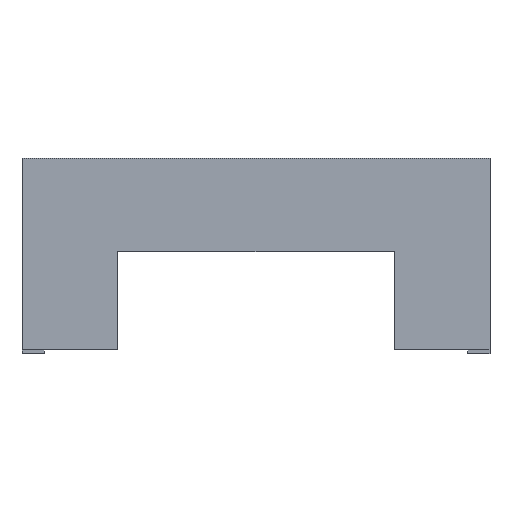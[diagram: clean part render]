
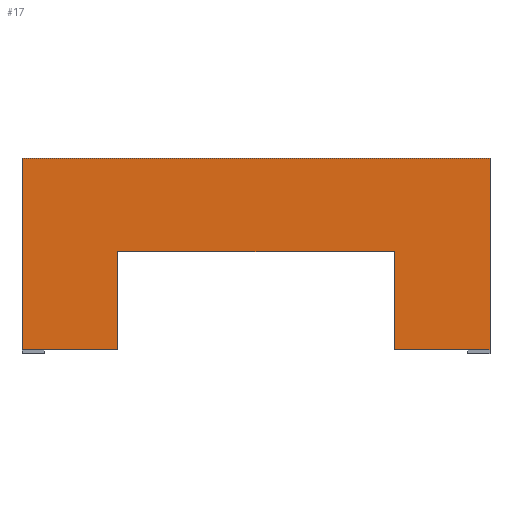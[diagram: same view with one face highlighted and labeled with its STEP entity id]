
A CAD part, left-side view. The second image highlights one B-rep face of the part: STEP entity #17.
In plain terms, the highlighted planar face has unit normal (-1, 0, 0).
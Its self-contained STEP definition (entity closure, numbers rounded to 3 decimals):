
#17 = ADVANCED_FACE('',(#18),#32,.F.);
#18 = FACE_BOUND('',#19,.F.);
#19 = EDGE_LOOP('',(#20,#55,#83,#111,#137,#163,#189,#217));
#20 = ORIENTED_EDGE('',*,*,#21,.F.);
#21 = EDGE_CURVE('',#22,#24,#26,.T.);
#22 = VERTEX_POINT('',#23);
#23 = CARTESIAN_POINT('',(67.6,18.336,12.));
#24 = VERTEX_POINT('',#25);
#25 = CARTESIAN_POINT('',(67.6,35.136,12.));
#26 = SURFACE_CURVE('',#27,(#31,#43),.PCURVE_S1.);
#27 = LINE('',#28,#29);
#28 = CARTESIAN_POINT('',(67.6,18.336,12.));
#29 = VECTOR('',#30,1.);
#30 = DIRECTION('',(0.,1.,0.));
#31 = PCURVE('',#32,#37);
#32 = PLANE('',#33);
#33 = AXIS2_PLACEMENT_3D('',#34,#35,#36);
#34 = CARTESIAN_POINT('',(67.6,18.336,5.13));
#35 = DIRECTION('',(1.,0.,0.));
#36 = DIRECTION('',(0.,0.,1.));
#37 = DEFINITIONAL_REPRESENTATION('',(#38),#42);
#38 = LINE('',#39,#40);
#39 = CARTESIAN_POINT('',(6.87,0.));
#40 = VECTOR('',#41,1.);
#41 = DIRECTION('',(0.,-1.));
#42 = ( GEOMETRIC_REPRESENTATION_CONTEXT(2) 
PARAMETRIC_REPRESENTATION_CONTEXT() REPRESENTATION_CONTEXT('2D SPACE',''
  ) );
#43 = PCURVE('',#44,#49);
#44 = PLANE('',#45);
#45 = AXIS2_PLACEMENT_3D('',#46,#47,#48);
#46 = CARTESIAN_POINT('',(67.6,18.336,12.));
#47 = DIRECTION('',(0.,0.,1.));
#48 = DIRECTION('',(1.,0.,0.));
#49 = DEFINITIONAL_REPRESENTATION('',(#50),#54);
#50 = LINE('',#51,#52);
#51 = CARTESIAN_POINT('',(0.,0.));
#52 = VECTOR('',#53,1.);
#53 = DIRECTION('',(0.,1.));
#54 = ( GEOMETRIC_REPRESENTATION_CONTEXT(2) 
PARAMETRIC_REPRESENTATION_CONTEXT() REPRESENTATION_CONTEXT('2D SPACE',''
  ) );
#55 = ORIENTED_EDGE('',*,*,#56,.F.);
#56 = EDGE_CURVE('',#57,#22,#59,.T.);
#57 = VERTEX_POINT('',#58);
#58 = CARTESIAN_POINT('',(67.6,18.336,5.13));
#59 = SURFACE_CURVE('',#60,(#64,#71),.PCURVE_S1.);
#60 = LINE('',#61,#62);
#61 = CARTESIAN_POINT('',(67.6,18.336,5.13));
#62 = VECTOR('',#63,1.);
#63 = DIRECTION('',(0.,0.,1.));
#64 = PCURVE('',#32,#65);
#65 = DEFINITIONAL_REPRESENTATION('',(#66),#70);
#66 = LINE('',#67,#68);
#67 = CARTESIAN_POINT('',(0.,0.));
#68 = VECTOR('',#69,1.);
#69 = DIRECTION('',(1.,0.));
#70 = ( GEOMETRIC_REPRESENTATION_CONTEXT(2) 
PARAMETRIC_REPRESENTATION_CONTEXT() REPRESENTATION_CONTEXT('2D SPACE',''
  ) );
#71 = PCURVE('',#72,#77);
#72 = PLANE('',#73);
#73 = AXIS2_PLACEMENT_3D('',#74,#75,#76);
#74 = CARTESIAN_POINT('',(68.507,18.336,8.504));
#75 = DIRECTION('',(-0.,-1.,-0.));
#76 = DIRECTION('',(0.,0.,-1.));
#77 = DEFINITIONAL_REPRESENTATION('',(#78),#82);
#78 = LINE('',#79,#80);
#79 = CARTESIAN_POINT('',(3.374,-0.907));
#80 = VECTOR('',#81,1.);
#81 = DIRECTION('',(-1.,0.));
#82 = ( GEOMETRIC_REPRESENTATION_CONTEXT(2) 
PARAMETRIC_REPRESENTATION_CONTEXT() REPRESENTATION_CONTEXT('2D SPACE',''
  ) );
#83 = ORIENTED_EDGE('',*,*,#84,.T.);
#84 = EDGE_CURVE('',#57,#85,#87,.T.);
#85 = VERTEX_POINT('',#86);
#86 = CARTESIAN_POINT('',(67.6,21.766,5.13));
#87 = SURFACE_CURVE('',#88,(#92,#99),.PCURVE_S1.);
#88 = LINE('',#89,#90);
#89 = CARTESIAN_POINT('',(67.6,18.336,5.13));
#90 = VECTOR('',#91,1.);
#91 = DIRECTION('',(0.,1.,0.));
#92 = PCURVE('',#32,#93);
#93 = DEFINITIONAL_REPRESENTATION('',(#94),#98);
#94 = LINE('',#95,#96);
#95 = CARTESIAN_POINT('',(0.,0.));
#96 = VECTOR('',#97,1.);
#97 = DIRECTION('',(0.,-1.));
#98 = ( GEOMETRIC_REPRESENTATION_CONTEXT(2) 
PARAMETRIC_REPRESENTATION_CONTEXT() REPRESENTATION_CONTEXT('2D SPACE',''
  ) );
#99 = PCURVE('',#100,#105);
#100 = PLANE('',#101);
#101 = AXIS2_PLACEMENT_3D('',#102,#103,#104);
#102 = CARTESIAN_POINT('',(67.6,18.336,5.13));
#103 = DIRECTION('',(0.,0.,1.));
#104 = DIRECTION('',(1.,0.,0.));
#105 = DEFINITIONAL_REPRESENTATION('',(#106),#110);
#106 = LINE('',#107,#108);
#107 = CARTESIAN_POINT('',(0.,0.));
#108 = VECTOR('',#109,1.);
#109 = DIRECTION('',(0.,1.));
#110 = ( GEOMETRIC_REPRESENTATION_CONTEXT(2) 
PARAMETRIC_REPRESENTATION_CONTEXT() REPRESENTATION_CONTEXT('2D SPACE',''
  ) );
#111 = ORIENTED_EDGE('',*,*,#112,.T.);
#112 = EDGE_CURVE('',#85,#113,#115,.T.);
#113 = VERTEX_POINT('',#114);
#114 = CARTESIAN_POINT('',(67.6,21.766,8.65));
#115 = SURFACE_CURVE('',#116,(#120,#126),.PCURVE_S1.);
#116 = LINE('',#117,#118);
#117 = CARTESIAN_POINT('',(67.6,21.766,5.015));
#118 = VECTOR('',#119,1.);
#119 = DIRECTION('',(0.,0.,1.));
#120 = PCURVE('',#32,#121);
#121 = DEFINITIONAL_REPRESENTATION('',(#122),#125);
#122 = B_SPLINE_CURVE_WITH_KNOTS('',1,(#123,#124),.UNSPECIFIED.,.F.,.F.,
  (2,2),(0.115,3.635),.PIECEWISE_BEZIER_KNOTS.);
#123 = CARTESIAN_POINT('',(0.,-3.43));
#124 = CARTESIAN_POINT('',(3.52,-3.43));
#125 = ( GEOMETRIC_REPRESENTATION_CONTEXT(2) 
PARAMETRIC_REPRESENTATION_CONTEXT() REPRESENTATION_CONTEXT('2D SPACE',''
  ) );
#126 = PCURVE('',#127,#132);
#127 = PLANE('',#128);
#128 = AXIS2_PLACEMENT_3D('',#129,#130,#131);
#129 = CARTESIAN_POINT('',(67.4,21.766,4.9));
#130 = DIRECTION('',(0.,1.,0.));
#131 = DIRECTION('',(0.,0.,1.));
#132 = DEFINITIONAL_REPRESENTATION('',(#133),#136);
#133 = B_SPLINE_CURVE_WITH_KNOTS('',1,(#134,#135),.UNSPECIFIED.,.F.,.F.,
  (2,2),(0.115,3.635),.PIECEWISE_BEZIER_KNOTS.);
#134 = CARTESIAN_POINT('',(0.23,0.2));
#135 = CARTESIAN_POINT('',(3.75,0.2));
#136 = ( GEOMETRIC_REPRESENTATION_CONTEXT(2) 
PARAMETRIC_REPRESENTATION_CONTEXT() REPRESENTATION_CONTEXT('2D SPACE',''
  ) );
#137 = ORIENTED_EDGE('',*,*,#138,.F.);
#138 = EDGE_CURVE('',#139,#113,#141,.T.);
#139 = VERTEX_POINT('',#140);
#140 = CARTESIAN_POINT('',(67.6,31.706,8.65));
#141 = SURFACE_CURVE('',#142,(#146,#152),.PCURVE_S1.);
#142 = LINE('',#143,#144);
#143 = CARTESIAN_POINT('',(67.6,20.051,8.65));
#144 = VECTOR('',#145,1.);
#145 = DIRECTION('',(0.,-1.,0.));
#146 = PCURVE('',#32,#147);
#147 = DEFINITIONAL_REPRESENTATION('',(#148),#151);
#148 = B_SPLINE_CURVE_WITH_KNOTS('',1,(#149,#150),.UNSPECIFIED.,.F.,.F.,
  (2,2),(-11.655,-1.715),.PIECEWISE_BEZIER_KNOTS.);
#149 = CARTESIAN_POINT('',(3.52,-13.37));
#150 = CARTESIAN_POINT('',(3.52,-3.43));
#151 = ( GEOMETRIC_REPRESENTATION_CONTEXT(2) 
PARAMETRIC_REPRESENTATION_CONTEXT() REPRESENTATION_CONTEXT('2D SPACE',''
  ) );
#152 = PCURVE('',#153,#158);
#153 = PLANE('',#154);
#154 = AXIS2_PLACEMENT_3D('',#155,#156,#157);
#155 = CARTESIAN_POINT('',(67.4,21.766,8.65));
#156 = DIRECTION('',(0.,0.,1.));
#157 = DIRECTION('',(1.,0.,0.));
#158 = DEFINITIONAL_REPRESENTATION('',(#159),#162);
#159 = B_SPLINE_CURVE_WITH_KNOTS('',1,(#160,#161),.UNSPECIFIED.,.F.,.F.,
  (2,2),(-11.655,-1.715),.PIECEWISE_BEZIER_KNOTS.);
#160 = CARTESIAN_POINT('',(0.2,9.94));
#161 = CARTESIAN_POINT('',(0.2,0.));
#162 = ( GEOMETRIC_REPRESENTATION_CONTEXT(2) 
PARAMETRIC_REPRESENTATION_CONTEXT() REPRESENTATION_CONTEXT('2D SPACE',''
  ) );
#163 = ORIENTED_EDGE('',*,*,#164,.F.);
#164 = EDGE_CURVE('',#165,#139,#167,.T.);
#165 = VERTEX_POINT('',#166);
#166 = CARTESIAN_POINT('',(67.6,31.706,5.13));
#167 = SURFACE_CURVE('',#168,(#172,#178),.PCURVE_S1.);
#168 = LINE('',#169,#170);
#169 = CARTESIAN_POINT('',(67.6,31.706,5.015));
#170 = VECTOR('',#171,1.);
#171 = DIRECTION('',(0.,0.,1.));
#172 = PCURVE('',#32,#173);
#173 = DEFINITIONAL_REPRESENTATION('',(#174),#177);
#174 = B_SPLINE_CURVE_WITH_KNOTS('',1,(#175,#176),.UNSPECIFIED.,.F.,.F.,
  (2,2),(0.115,3.635),.PIECEWISE_BEZIER_KNOTS.);
#175 = CARTESIAN_POINT('',(0.,-13.37));
#176 = CARTESIAN_POINT('',(3.52,-13.37));
#177 = ( GEOMETRIC_REPRESENTATION_CONTEXT(2) 
PARAMETRIC_REPRESENTATION_CONTEXT() REPRESENTATION_CONTEXT('2D SPACE',''
  ) );
#178 = PCURVE('',#179,#184);
#179 = PLANE('',#180);
#180 = AXIS2_PLACEMENT_3D('',#181,#182,#183);
#181 = CARTESIAN_POINT('',(67.4,31.706,4.9));
#182 = DIRECTION('',(0.,1.,0.));
#183 = DIRECTION('',(0.,0.,1.));
#184 = DEFINITIONAL_REPRESENTATION('',(#185),#188);
#185 = B_SPLINE_CURVE_WITH_KNOTS('',1,(#186,#187),.UNSPECIFIED.,.F.,.F.,
  (2,2),(0.115,3.635),.PIECEWISE_BEZIER_KNOTS.);
#186 = CARTESIAN_POINT('',(0.23,0.2));
#187 = CARTESIAN_POINT('',(3.75,0.2));
#188 = ( GEOMETRIC_REPRESENTATION_CONTEXT(2) 
PARAMETRIC_REPRESENTATION_CONTEXT() REPRESENTATION_CONTEXT('2D SPACE',''
  ) );
#189 = ORIENTED_EDGE('',*,*,#190,.T.);
#190 = EDGE_CURVE('',#165,#191,#193,.T.);
#191 = VERTEX_POINT('',#192);
#192 = CARTESIAN_POINT('',(67.6,35.136,5.13));
#193 = SURFACE_CURVE('',#194,(#198,#205),.PCURVE_S1.);
#194 = LINE('',#195,#196);
#195 = CARTESIAN_POINT('',(67.6,18.336,5.13));
#196 = VECTOR('',#197,1.);
#197 = DIRECTION('',(0.,1.,0.));
#198 = PCURVE('',#32,#199);
#199 = DEFINITIONAL_REPRESENTATION('',(#200),#204);
#200 = LINE('',#201,#202);
#201 = CARTESIAN_POINT('',(0.,0.));
#202 = VECTOR('',#203,1.);
#203 = DIRECTION('',(0.,-1.));
#204 = ( GEOMETRIC_REPRESENTATION_CONTEXT(2) 
PARAMETRIC_REPRESENTATION_CONTEXT() REPRESENTATION_CONTEXT('2D SPACE',''
  ) );
#205 = PCURVE('',#206,#211);
#206 = PLANE('',#207);
#207 = AXIS2_PLACEMENT_3D('',#208,#209,#210);
#208 = CARTESIAN_POINT('',(67.6,18.336,5.13));
#209 = DIRECTION('',(0.,0.,1.));
#210 = DIRECTION('',(1.,0.,0.));
#211 = DEFINITIONAL_REPRESENTATION('',(#212),#216);
#212 = LINE('',#213,#214);
#213 = CARTESIAN_POINT('',(0.,0.));
#214 = VECTOR('',#215,1.);
#215 = DIRECTION('',(0.,1.));
#216 = ( GEOMETRIC_REPRESENTATION_CONTEXT(2) 
PARAMETRIC_REPRESENTATION_CONTEXT() REPRESENTATION_CONTEXT('2D SPACE',''
  ) );
#217 = ORIENTED_EDGE('',*,*,#218,.T.);
#218 = EDGE_CURVE('',#191,#24,#219,.T.);
#219 = SURFACE_CURVE('',#220,(#224,#231),.PCURVE_S1.);
#220 = LINE('',#221,#222);
#221 = CARTESIAN_POINT('',(67.6,35.136,5.13));
#222 = VECTOR('',#223,1.);
#223 = DIRECTION('',(0.,0.,1.));
#224 = PCURVE('',#32,#225);
#225 = DEFINITIONAL_REPRESENTATION('',(#226),#230);
#226 = LINE('',#227,#228);
#227 = CARTESIAN_POINT('',(0.,-16.8));
#228 = VECTOR('',#229,1.);
#229 = DIRECTION('',(1.,0.));
#230 = ( GEOMETRIC_REPRESENTATION_CONTEXT(2) 
PARAMETRIC_REPRESENTATION_CONTEXT() REPRESENTATION_CONTEXT('2D SPACE',''
  ) );
#231 = PCURVE('',#232,#237);
#232 = PLANE('',#233);
#233 = AXIS2_PLACEMENT_3D('',#234,#235,#236);
#234 = CARTESIAN_POINT('',(68.507,35.136,8.504)
  );
#235 = DIRECTION('',(0.,1.,0.));
#236 = DIRECTION('',(0.,0.,1.));
#237 = DEFINITIONAL_REPRESENTATION('',(#238),#242);
#238 = LINE('',#239,#240);
#239 = CARTESIAN_POINT('',(-3.374,-0.907));
#240 = VECTOR('',#241,1.);
#241 = DIRECTION('',(1.,0.));
#242 = ( GEOMETRIC_REPRESENTATION_CONTEXT(2) 
PARAMETRIC_REPRESENTATION_CONTEXT() REPRESENTATION_CONTEXT('2D SPACE',''
  ) );
